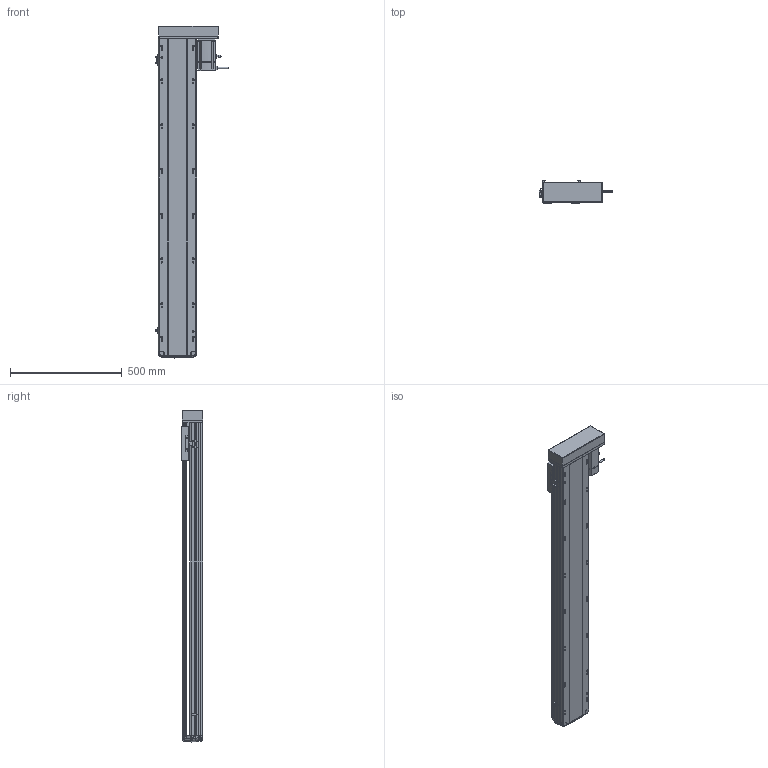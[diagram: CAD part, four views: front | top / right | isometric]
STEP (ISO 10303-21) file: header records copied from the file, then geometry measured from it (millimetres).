
FILE_DESCRIPTION (( 'STEP AP214' ), '1' );
FILE_NAME ('RTH17-XX-1200-L-M75-C4.STEP', '2025-10-24T10:37:02', ( '' ), ( '' ), 'SwSTEP 2.0', 'SolidWorks 2018', '' );
FILE_SCHEMA (( 'AUTOMOTIVE_DESIGN' ));
Length unit declared in the file: millimetre
Products named in the file (10): N_OMRON EE-SX672 換覜ん^RTH17-XX-XX-L-M75-C4ㄗ源最宒ㄘ; N_RTH17-L-018盖子^RTH17-XX-XX-L-M75-C4（方程式）; N_RTH17-E-004丝杆螺母连接座^RTH17-XX-XX-L-M75-C4（方程式）; N_M75^RTH17-XX-XX-L-M75-C4（方程式）; RTH17-XX-1200-L-M75-C4; N_RTH17-GY-001P^RTH17-XX-XX-L-M75-C4（方程式）; N_RTH17-M-011底座^RTH17-XX-XX-L-M75-C4（方程式）; N_RTH-L-012 感应片(外置)^RTH17-XX-XX-L-M75-C4（方程式）; N_RTH17-L-008-P75电机安装板左转折^RTH17-XX-XX-L-M75-C4（方程式）; N_RTH17-M-007上盖^RTH17-XX-XX-L-M75-C4（方程式）
Assembly tree (11 placements, depth 2):
  RTH17-XX-1200-L-M75-C4
    N_RTH17-M-011底座^RTH17-XX-XX-L-M75-C4（方程式）
    N_RTH17-M-007上盖^RTH17-XX-XX-L-M75-C4（方程式）
    N_M75^RTH17-XX-XX-L-M75-C4（方程式）
    N_OMRON EE-SX672 換覜ん^RTH17-XX-XX-L-M75-C4ㄗ源最宒ㄘ  x3
    N_RTH-L-012 感应片(外置)^RTH17-XX-XX-L-M75-C4（方程式）
    N_RTH17-L-008-P75电机安装板左转折^RTH17-XX-XX-L-M75-C4（方程式）
    N_RTH17-L-018盖子^RTH17-XX-XX-L-M75-C4（方程式）
    N_RTH17-E-004丝杆螺母连接座^RTH17-XX-XX-L-M75-C4（方程式）
    N_RTH17-GY-001P^RTH17-XX-XX-L-M75-C4（方程式）
Bounding box: 326.7 x 97 x 1482.99 mm (x, y, z)
Volume: 12644788.5 mm3; surface area: 1582405.5 mm2
Topology: 13 solids, 15 shells, 1789 faces, 4943 edges, 3202 vertices
Faces by surface type: plane 837, cylinder 538, bspline 377, cone 28, torus 9
Entity records: 52717 total; most frequent: CARTESIAN_POINT 21003, ORIENTED_EDGE 6910, DIRECTION 5743, EDGE_CURVE 3459, VERTEX_POINT 2238, AXIS2_PLACEMENT_3D 1945, LINE 1853, VECTOR 1853
